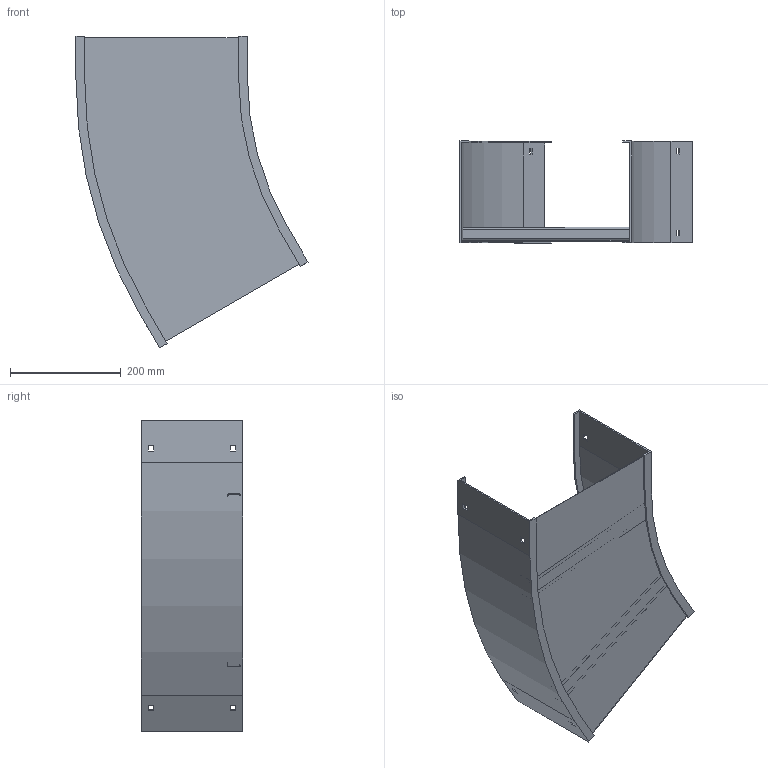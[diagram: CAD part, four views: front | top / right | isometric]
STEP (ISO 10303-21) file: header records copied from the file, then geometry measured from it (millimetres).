
FILE_DESCRIPTION((''),'2;1');
FILE_NAME('AUF712SHB3024_ASM','2010-02-01T',('erouzier'),(''),'PRO/ENGINEER BY PARAMETRIC TECHNOLOGY CORPORATION, 2008510','PRO/ENGINEER BY PARAMETRIC TECHNOLOGY CORPORATION, 2008510','');
FILE_SCHEMA(('CONFIG_CONTROL_DESIGN'));
Length unit declared in the file: inch
Products named in the file (5): CDS001322-7-30-21-I; CDS001322-7-30-33-O; CDS002159L12; CDS003641-12-24-30; AUF712SHB3024_ASM
Assembly tree (5 placements, depth 2):
  AUF712SHB3024_ASM
    CDS001322-7-30-21-I
    CDS001322-7-30-33-O
    CDS002159L12  x2
    CDS003641-12-24-30
Bounding box: 419.95 x 183.9 x 564.09 mm (x, y, z)
Volume: 839513.8 mm3; surface area: 889002.8 mm2
Topology: 5 solids, 5 shells, 138 faces, 384 edges, 256 vertices
Faces by surface type: plane 106, cylinder 32
Entity records: 3605 total; most frequent: CARTESIAN_POINT 618, ORIENTED_EDGE 600, DIRECTION 578, EDGE_CURVE 300, VECTOR 258, LINE 258, VERTEX_POINT 200, AXIS2_PLACEMENT_3D 160
